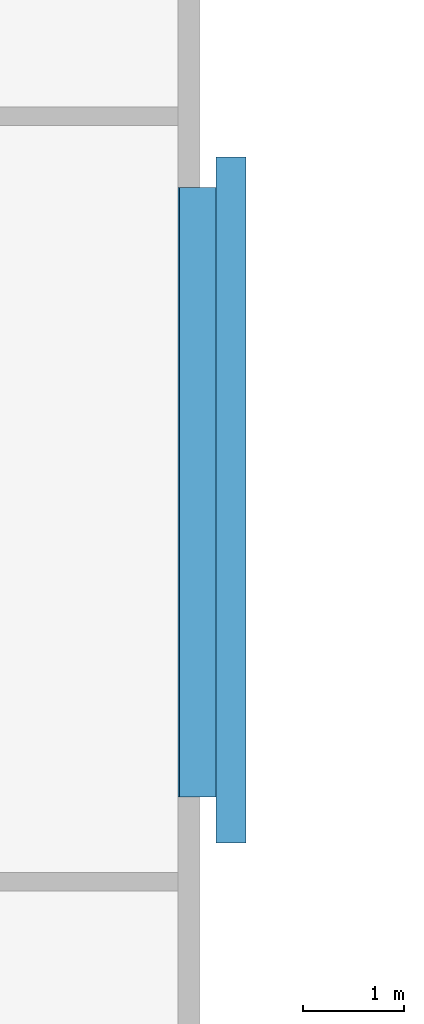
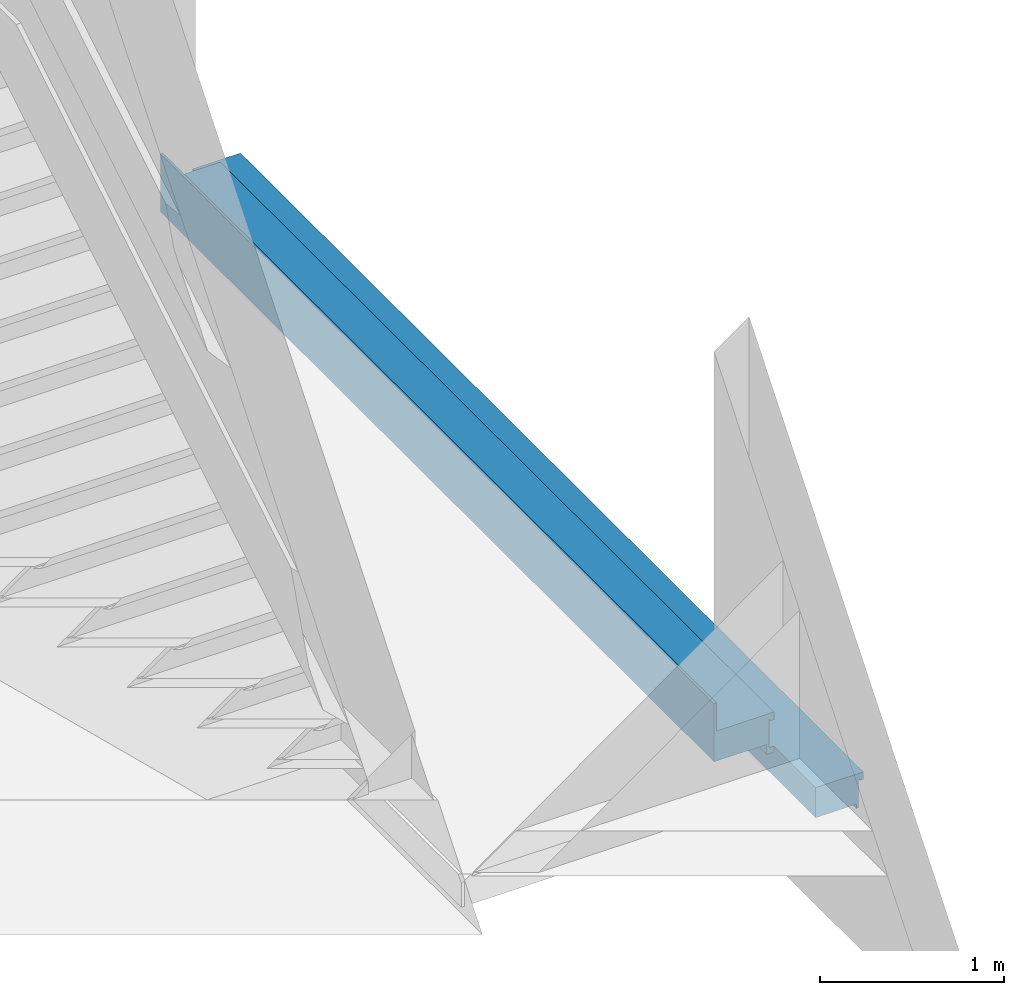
# One storey, part 102 of 117: 1 stair flight, 1 element without a shape of its own.
"""IFC4 building model written with IfcOpenShell, lengths in metres."""

from ifc_helpers import new_model, entity, si_unit, converted_unit, derived_unit, direction, frame, origin, place, context, subcontext, project, spatial, polygons, material, constituent, constituent_set, type_object, element, aggregate, save


model = new_model("IFC4")

# Units and contexts
model_context = context("Model", 3, precision=1e-05, world=origin(), true_north=direction((6.123031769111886e-17, 1.0)))
body_context = subcontext(model_context, "Body", "Model", "MODEL_VIEW")
ifc_project = project(units=[si_unit("LENGTHUNIT", "METRE"), si_unit("AREAUNIT", "SQUARE_METRE"), si_unit("VOLUMEUNIT", "CUBIC_METRE"), converted_unit("PLANEANGLEUNIT", "DEGREE", entity("IfcRatioMeasure", 0.017453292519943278), si_unit("PLANEANGLEUNIT", "RADIAN"), dimensions=[0, 0, 0, 0, 0, 0, 0]), si_unit("MASSUNIT", "GRAM", prefix="KILO"), derived_unit("MASSDENSITYUNIT", [(si_unit("MASSUNIT", "GRAM", prefix="KILO"), 1), (si_unit("LENGTHUNIT", "METRE"), -3)]), derived_unit("MOMENTOFINERTIAUNIT", [(si_unit("LENGTHUNIT", "METRE"), 4)]), si_unit("TIMEUNIT", "SECOND"), si_unit("FREQUENCYUNIT", "HERTZ"), si_unit("THERMODYNAMICTEMPERATUREUNIT", "DEGREE_CELSIUS"), derived_unit("THERMALTRANSMITTANCEUNIT", [(si_unit("MASSUNIT", "GRAM", prefix="KILO"), 1), (si_unit("THERMODYNAMICTEMPERATUREUNIT", "KELVIN"), -1), (si_unit("TIMEUNIT", "SECOND"), -3)]), derived_unit("VOLUMETRICFLOWRATEUNIT", [(si_unit("LENGTHUNIT", "METRE"), 3), (si_unit("TIMEUNIT", "SECOND"), -1)]), derived_unit("MASSFLOWRATEUNIT", [(si_unit("MASSUNIT", "GRAM", prefix="KILO"), 1), (si_unit("TIMEUNIT", "SECOND"), -1)]), derived_unit("ROTATIONALFREQUENCYUNIT", [(si_unit("TIMEUNIT", "SECOND"), -1)]), si_unit("ELECTRICCURRENTUNIT", "AMPERE"), si_unit("ELECTRICVOLTAGEUNIT", "VOLT"), si_unit("POWERUNIT", "WATT"), si_unit("FORCEUNIT", "NEWTON", prefix="KILO"), si_unit("ILLUMINANCEUNIT", "LUX"), si_unit("LUMINOUSFLUXUNIT", "LUMEN"), si_unit("LUMINOUSINTENSITYUNIT", "CANDELA"), derived_unit("USERDEFINED", [(si_unit("MASSUNIT", "GRAM", prefix="KILO"), -1), (si_unit("LENGTHUNIT", "METRE"), -2), (si_unit("TIMEUNIT", "SECOND"), 3), (si_unit("LUMINOUSFLUXUNIT", "LUMEN"), 1)]), derived_unit("SOUNDPOWERUNIT", [(si_unit("MASSUNIT", "GRAM", prefix="KILO"), 1), (si_unit("LENGTHUNIT", "METRE"), 2), (si_unit("TIMEUNIT", "SECOND"), -3)]), derived_unit("SOUNDPRESSUREUNIT", [(si_unit("MASSUNIT", "GRAM", prefix="KILO"), 1), (si_unit("LENGTHUNIT", "METRE"), -1), (si_unit("TIMEUNIT", "SECOND"), -2)]), derived_unit("LINEARVELOCITYUNIT", [(si_unit("LENGTHUNIT", "METRE"), 1), (si_unit("TIMEUNIT", "SECOND"), -1)]), si_unit("PRESSUREUNIT", "PASCAL"), derived_unit("USERDEFINED", [(si_unit("LENGTHUNIT", "METRE"), -2), (si_unit("MASSUNIT", "GRAM", prefix="KILO"), 1), (si_unit("TIMEUNIT", "SECOND"), -2)]), derived_unit("LINEARFORCEUNIT", [(si_unit("MASSUNIT", "GRAM", prefix="KILO"), 1), (si_unit("LENGTHUNIT", "METRE"), 1), (si_unit("TIMEUNIT", "SECOND"), -2), (si_unit("LENGTHUNIT", "METRE"), -1)]), derived_unit("PLANARFORCEUNIT", [(si_unit("MASSUNIT", "GRAM", prefix="KILO"), 1), (si_unit("LENGTHUNIT", "METRE"), 1), (si_unit("TIMEUNIT", "SECOND"), -2), (si_unit("LENGTHUNIT", "METRE"), -2)])], contexts=[model_context])

# Site, building, storey
site_placement = place(None, origin())
site = spatial("IfcSite", under=ifc_project, at=site_placement, Name="Superficie", CompositionType="ELEMENT")
building_placement = place(site_placement, origin())
building = spatial("IfcBuilding", under=site, at=building_placement, CompositionType="ELEMENT")
storey_placement = place(building_placement, origin())
storey = spatial("IfcBuildingStorey", under=building, at=storey_placement, Name="Nivel 0", CompositionType="ELEMENT", Elevation=0.0)

# Stair, stair flight
stair_type = type_object("IfcStairType", Name="Escalera prefabricada:Escalera prefabricada", PredefinedType="STRAIGHT_RUN_STAIR")
stair_placement = place(storey_placement, origin())
stair = element("IfcStair", 1, at=stair_placement, inside=storey, type_object=stair_type, Name="Escalera prefabricada:Escalera", ObjectType="Escalera prefabricada:Escalera prefabricada", PredefinedType="STRAIGHT_RUN_STAIR")
ifc_material_1 = material(Name="Cerámica blanca", Category="Cerámica")
ifc_constituent_1 = constituent(ifc_material_1, Name="Cerámica blanca", Category="Cerámica")
ifc_material_2 = material(Name="Hormigón", Category="Hormigón")
ifc_constituent_2 = constituent(ifc_material_2, Name="Hormigón", Category="Hormigón")
ifc_constituent_set = constituent_set(constituents=[ifc_constituent_1, ifc_constituent_2], Name="MaterialConstituentSet")
stair_flight_type = type_object("IfcStairFlightType", Name="Tramo monolítico:Huella 40 mm Mamperlán 30 mm Contrahuella 15 mm", PredefinedType="NOTDEFINED")
stair_flight_placement = place(stair_placement, frame((27.676799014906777, -3.6641708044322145, 0.0)))
stair_flight = element("IfcStairFlight", 2, at=stair_flight_placement, type_object=stair_flight_type, material=ifc_constituent_set, Name="Escalera prefabricada:Escalera:583606 Run 1", ObjectType="Tramo monolítico:Huella 40 mm Mamperlán 30 mm Contrahuella 15 mm", PredefinedType="NOTDEFINED", context=body_context, shape_type="Tessellation", body=[
    polygons([(0.6749999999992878, 6.775000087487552, -0.8033333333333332), (0.6749999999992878, 6.775000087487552, -0.7533333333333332), (0.6749999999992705, -5.414335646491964e-16, -0.7533333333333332), (0.6749999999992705, -5.414335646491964e-16, -0.8033333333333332), (0.65199999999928, 6.775000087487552, -0.8033333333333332), (0.651999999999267, -5.414335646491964e-16, -0.8033333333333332), (0.65199999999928, 6.775000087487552, -0.7933333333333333), (0.651999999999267, -5.414335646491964e-16, -0.7933333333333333), (0.3299999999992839, 0.4550302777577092, -0.7533333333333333), (0.3749999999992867, 0.4550302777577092, -0.7533333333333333), (0.3749999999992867, 1.0828671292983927e-15, -0.7533333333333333), (0.3749999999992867, 6.775000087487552, -0.7533333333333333), (0.3749999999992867, 6.475000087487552, -0.7533333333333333), (0.32999999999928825, 6.475000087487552, -0.7533333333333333), (0.3749999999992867, 0.4550302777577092, -0.7933333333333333), (0.3299999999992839, 0.4550302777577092, -0.7933333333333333), (0.32999999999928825, 6.475000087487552, -0.7933333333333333), (0.3749999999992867, 6.475000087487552, -0.7933333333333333), (0.3749999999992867, 6.775000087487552, -0.7933333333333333), (0.3749999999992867, 1.0828671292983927e-15, -0.7933333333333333)], [[[1, 2, 3, 4]], [[5, 1, 4, 6]], [[7, 5, 6, 8]], [[9, 10, 11, 3, 2, 12, 13, 14]], [[15, 16, 17, 18, 19, 7, 8, 20]], [[10, 9, 16, 15]], [[11, 10, 15, 20]], [[3, 11, 20, 8, 6, 4]], [[12, 2, 1, 5, 7, 19]], [[13, 12, 19, 18]], [[14, 13, 18, 17]], [[9, 14, 17, 16]]], closed=True),
    polygons([(0.6449999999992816, 6.775000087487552, -0.7933333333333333), (0.6449999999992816, 6.775000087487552, -0.9799999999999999), (0.6299999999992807, 6.775000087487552, -0.9799999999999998), (0.6299999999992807, 6.775000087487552, -0.7933333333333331), (0.6449999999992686, -5.414335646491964e-16, -0.7933333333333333), (0.6299999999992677, -5.414335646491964e-16, -0.7933333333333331), (0.6299999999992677, -5.414335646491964e-16, -0.9799999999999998), (0.6449999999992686, -5.414335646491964e-16, -0.9799999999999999)], [[[1, 2, 3, 4]], [[5, 6, 7, 8]], [[2, 1, 5, 8]], [[3, 2, 8, 7]], [[4, 3, 7, 6]], [[1, 4, 6, 5]]], closed=True),
    polygons([(0.3449999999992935, 6.475000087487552, -0.5666666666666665), (0.3449999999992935, 6.475000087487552, -0.7533333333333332), (0.32999999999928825, 6.475000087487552, -0.7533333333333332), (0.32999999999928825, 6.475000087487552, -0.5666666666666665), (0.3449999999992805, 0.4550302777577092, -0.5666666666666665), (0.3299999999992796, 0.4550302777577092, -0.5666666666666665), (0.3299999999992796, 0.4550302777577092, -0.7533333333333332), (0.3449999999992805, 0.4550302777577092, -0.7533333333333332)], [[[1, 2, 3, 4]], [[5, 6, 7, 8]], [[2, 1, 5, 8]], [[3, 2, 8, 7]], [[4, 3, 7, 6]], [[1, 4, 6, 5]]], closed=True),
    polygons([(0.015000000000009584, 6.475000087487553, -0.33999999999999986), (0.015000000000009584, 6.475000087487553, -0.5266666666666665), (1.2994405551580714e-14, 6.475000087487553, -0.5266666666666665), (1.2994405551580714e-14, 6.475000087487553, -0.33999999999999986), (0.015000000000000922, 0.4550302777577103, -0.33999999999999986), (0.0, 0.4550302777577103, -0.33999999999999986), (0.0, 0.4550302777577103, -0.5266666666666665), (0.015000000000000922, 0.4550302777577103, -0.5266666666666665)], [[[1, 2, 3, 4]], [[5, 6, 7, 8]], [[2, 1, 5, 8]], [[3, 2, 8, 7]], [[4, 3, 7, 6]], [[1, 4, 6, 5]]], closed=True),
    polygons([(0.3749999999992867, 0.4550302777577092, -0.5266666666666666), (0.374999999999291, 6.475000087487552, -0.5266666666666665), (1.2994405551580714e-14, 6.475000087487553, -0.5266666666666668), (0.0, 0.4550302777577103, -0.5266666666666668), (0.0, 0.4550302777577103, -0.5666666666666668), (1.2994405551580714e-14, 6.475000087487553, -0.5666666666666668), (0.3519999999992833, 6.475000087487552, -0.5666666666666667), (0.35199999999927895, 0.4550302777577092, -0.5666666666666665), (0.35199999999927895, 0.4550302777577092, -0.5766666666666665), (0.3749999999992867, 0.4550302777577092, -0.5766666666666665), (0.374999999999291, 6.475000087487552, -0.5766666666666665), (0.3519999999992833, 6.475000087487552, -0.5766666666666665)], [[[1, 2, 3, 4]], [[5, 6, 7, 8]], [[1, 4, 5, 8, 9, 10]], [[3, 2, 11, 12, 7, 6]], [[4, 3, 6, 5]], [[11, 2, 1, 10]], [[12, 11, 10, 9]], [[7, 12, 9, 8]]], closed=True),
    polygons([(0.3749999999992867, 6.775000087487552, -0.7933333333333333), (0.3749999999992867, 1.0828671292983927e-15, -0.7933333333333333), (0.629999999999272, -5.414335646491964e-16, -0.7933333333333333), (0.629999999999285, 6.775000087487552, -0.7933333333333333), (0.3749999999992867, 6.775000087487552, -0.9533333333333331), (0.3749999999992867, 1.0828671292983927e-15, -0.9533333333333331), (0.629999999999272, -5.414335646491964e-16, -0.9533333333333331), (0.629999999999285, 6.775000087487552, -0.9533333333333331)], [[[1, 2, 3, 4]], [[1, 5, 6, 2]], [[3, 2, 6, 7]], [[4, 3, 7, 8]], [[1, 4, 8, 5]], [[6, 5, 8, 7]]], closed=True),
    polygons([(0.0, 0.4550302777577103, -0.5666666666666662), (0.3299999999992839, 0.4550302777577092, -0.5666666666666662), (0.32999999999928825, 6.475000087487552, -0.5666666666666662), (1.2994405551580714e-14, 6.475000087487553, -0.5666666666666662), (0.0, 0.4550302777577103, -0.7266666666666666), (0.3299999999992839, 0.4550302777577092, -0.7266666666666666), (0.32999999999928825, 6.475000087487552, -0.7266666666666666), (1.2994405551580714e-14, 6.475000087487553, -0.7266666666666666)], [[[1, 2, 3, 4]], [[2, 1, 5, 6]], [[3, 2, 6, 7]], [[4, 3, 7, 8]], [[1, 4, 8, 5]], [[7, 6, 5, 8]]], closed=True),
])
aggregate(stair, [stair_flight])

save(model, "model.ifc")
